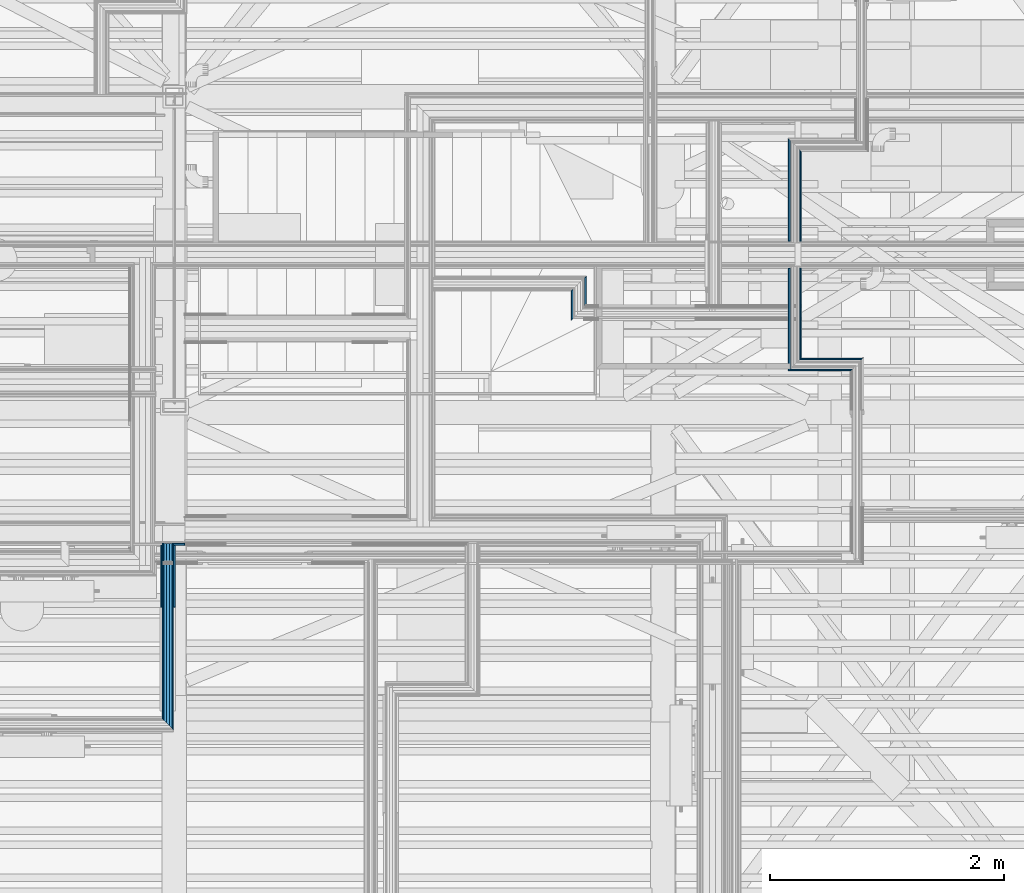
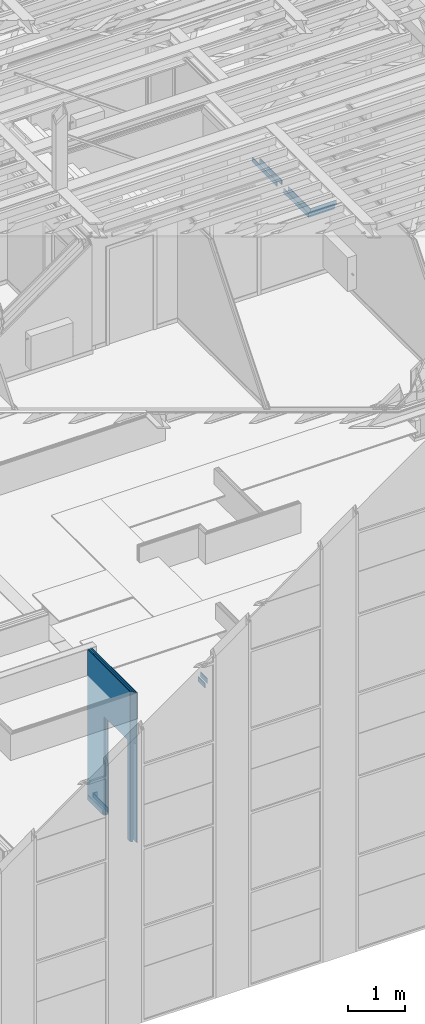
# One storey, part 77 of 183: 16 building element parts, 1 opening, 6 elements without a shape of their own.
"""IFC2X3 building model written with IfcOpenShell, lengths in metres."""

import ifcopenshell
import ifcopenshell.guid

model = None  # the IFC model being written
_history = None  # IfcOwnerHistory: only IFC2X3 demands one
_inside = {}  # id of a spatial element -> (the spatial element, [elements in it])
_under = {}  # id of a project, library or spatial element -> (it, [spatial elements below it])
_declared = {}  # id of a project -> (the project, [libraries it declares])
_typed = {}  # id of a type object -> (the type object, [elements of that type])
_made_of = {}  # id of a material, layer set ... -> (it, [elements and type objects made of it])


def new_model(schema):
    """Start an empty IFC model of exactly this schema.

    Asked for "IFC4X3", IfcOpenShell would pick the latest addendum, in which some entities
    have other attributes; the version numbers below select the first issue.
    IFC2X3 requires an IfcOwnerHistory on every rooted entity: one is made here for all.
    """
    global model, _history
    if schema == "IFC4X3":
        model = ifcopenshell.file(schema_version=(4, 3, 0, 0))
    else:
        model = ifcopenshell.file(schema=schema)
    _inside.clear()
    _under.clear()
    _declared.clear()
    _typed.clear()
    _made_of.clear()
    _history = None
    if model.schema == "IFC2X3":
        org = make("IfcOrganization", Name="unknown")
        user = make(
            "IfcPersonAndOrganization",
            ThePerson=make("IfcPerson", FamilyName="unknown"),
            TheOrganization=org,
        )
        app = make(
            "IfcApplication",
            ApplicationDeveloper=org,
            Version="unknown",
            ApplicationFullName="unknown",
            ApplicationIdentifier="unknown",
        )
        _history = make(
            "IfcOwnerHistory",
            OwningUser=user,
            OwningApplication=app,
            ChangeAction="ADDED",
            CreationDate=0,
        )
    return model


def make(cls, **values):
    """One entity of the class cls with the attributes given. An attribute that is None is left unset."""
    return model.create_entity(
        cls, **{name: value for name, value in values.items() if value is not None}
    )


def entity(cls, *values):
    """Any entity or typed value of the class cls, its attributes in the order of the schema. None: left unset."""
    e = model.create_entity(cls)
    for i, value in enumerate(values):
        if value is not None:
            e[i] = value
    return e


def rooted(cls, **values):
    """An entity with a GlobalId (a new one), such as an element, a storey or a relation."""
    return make(cls, GlobalId=ifcopenshell.guid.new(), OwnerHistory=_history, **values)


def si_unit(unit_type, name, prefix=None):
    """IfcSIUnit, for example si_unit("LENGTHUNIT", "METRE", prefix="MILLI")."""
    return make("IfcSIUnit", UnitType=unit_type, Prefix=prefix, Name=name)


def converted_unit(unit_type, name, factor, base, dimensions=None, offset=None):
    """IfcConversionBasedUnit, such as the inch: factor (a typed value) times the base unit."""
    return make(
        "IfcConversionBasedUnit"
        if offset is None
        else "IfcConversionBasedUnitWithOffset",
        ConversionOffset=offset,
        Dimensions=None
        if dimensions is None
        else entity("IfcDimensionalExponents", *dimensions),
        UnitType=unit_type,
        Name=name,
        ConversionFactor=make(
            "IfcMeasureWithUnit", ValueComponent=factor, UnitComponent=base
        ),
    )


def derived_unit(unit_type, elements):
    """IfcDerivedUnit: a product of units, each with its exponent."""
    return make(
        "IfcDerivedUnit",
        Elements=[
            make("IfcDerivedUnitElement", Unit=unit, Exponent=power)
            for unit, power in elements
        ],
        UnitType=unit_type,
    )


def money_unit(currency):
    """IfcMonetaryUnit."""
    return make("IfcMonetaryUnit", Currency=currency)


def assignment(units):
    """IfcUnitAssignment: the units of a project."""
    return None if units is None else make("IfcUnitAssignment", Units=units)


def point(xyz):
    """IfcCartesianPoint."""
    return None if xyz is None else make("IfcCartesianPoint", Coordinates=xyz)


def direction(xyz):
    """IfcDirection."""
    return None if xyz is None else make("IfcDirection", DirectionRatios=xyz)


def frame(location, z_axis=None, x_axis=None):
    """IfcAxis2Placement3D, a coordinate frame: its origin and axes. An axis left out is left unset."""
    return make(
        "IfcAxis2Placement3D",
        Location=point(location),
        Axis=direction(z_axis),
        RefDirection=direction(x_axis),
    )


def frame_2d(location, x_axis=None):
    """IfcAxis2Placement2D, a coordinate frame in the plane: its origin and x axis."""
    return make(
        "IfcAxis2Placement2D", Location=point(location), RefDirection=direction(x_axis)
    )


def origin_with_axes():
    """The frame at (0, 0, 0) with the z axis (0, 0, 1) and the x axis (1, 0, 0) written out."""
    return frame((0.0, 0.0, 0.0), z_axis=(0.0, 0.0, 1.0), x_axis=(1.0, 0.0, 0.0))


def place(relative_to, where):
    """IfcLocalPlacement: puts the frame where relative to a parent placement (None: the world)."""
    return make(
        "IfcLocalPlacement", PlacementRelTo=relative_to, RelativePlacement=where
    )


def context(
    kind, dimensions, precision=None, world=None, true_north=None, identifier=None
):
    """IfcGeometricRepresentationContext, for example the 3D "Model" context."""
    return make(
        "IfcGeometricRepresentationContext",
        ContextIdentifier=identifier,
        ContextType=kind,
        CoordinateSpaceDimension=dimensions,
        Precision=precision,
        WorldCoordinateSystem=world,
        TrueNorth=true_north,
    )


def subcontext(parent, identifier, kind, view, scale=None):
    """IfcGeometricRepresentationSubContext, for example "Body" below "Model"."""
    return make(
        "IfcGeometricRepresentationSubContext",
        ContextIdentifier=identifier,
        ContextType=kind,
        ParentContext=parent,
        TargetScale=scale,
        TargetView=view,
    )


def project(units=None, contexts=None):
    """IfcProject with its units and contexts."""
    return rooted(
        "IfcProject",
        Name="project",
        RepresentationContexts=contexts,
        UnitsInContext=assignment(units),
    )


def spatial(cls, under=None, at=None, **own):
    """A site, building, storey or space (cls), placed at a placement, below another one or the project."""
    s = rooted(cls, ObjectPlacement=at, **own)
    if under is not None:
        _under.setdefault(under.id(), (under, []))[1].append(s)
    return s


def polyline(points):
    """IfcPolyline through the points."""
    return make("IfcPolyline", Points=[point(p) for p in points])


def profile(cls, at=None, kind="AREA", **sizes):
    """A parametric profile (cls). Its sizes go by their IFC names, for example OverallWidth=200.0."""
    return make(cls, ProfileType=kind, Position=at, **sizes)


def rectangle(**sizes):
    """IfcRectangleProfileDef."""
    return profile("IfcRectangleProfileDef", **sizes)


def outline(outer, holes=None, kind="AREA"):
    """IfcArbitraryClosedProfileDef: a profile drawn as a closed curve; with holes, ...WithVoids."""
    if holes is None:
        return make("IfcArbitraryClosedProfileDef", ProfileType=kind, OuterCurve=outer)
    return make(
        "IfcArbitraryProfileDefWithVoids",
        ProfileType=kind,
        OuterCurve=outer,
        InnerCurves=holes,
    )


def extrude(swept, where, along, depth):
    """IfcExtrudedAreaSolid: the profile swept, set in the frame where, extruded along a direction by depth."""
    return make(
        "IfcExtrudedAreaSolid",
        SweptArea=swept,
        Position=where,
        ExtrudedDirection=direction(along),
        Depth=depth,
    )


def shape(context_of_items, identifier, shape_type, items):
    """IfcShapeRepresentation: the items that make up one representation, for example the "Body"."""
    return make(
        "IfcShapeRepresentation",
        ContextOfItems=context_of_items,
        RepresentationIdentifier=identifier,
        RepresentationType=shape_type,
        Items=items,
    )


def material(Name=None, Category=None):
    """IfcMaterial."""
    return make("IfcMaterial", Name=Name, Category=Category)


def made_of(thing, what):
    """Note that an element or type object is made of a material, layer set ...; save() writes the relation."""
    if what is not None:
        _made_of.setdefault(what.id(), (what, []))[1].append(thing)
    return thing


def type_object(cls, material=None, **own):
    """A type object (cls), such as IfcWallType, which elements share."""
    return made_of(rooted(cls, **own), material)


def element(
    cls,
    number,
    at=None,
    inside=None,
    cuts=None,
    type_object=None,
    material=None,
    context=None,
    identifier="Body",
    shape_type=None,
    held_by="IfcProductDefinitionShape",
    body=None,
    shapes=None,
    **own,
):
    """One element of the class cls, such as IfcWall. Its Tag is "e" and its number.

    at: its placement. inside: the storey or other place that contains it. cuts: it is an
    opening in that element (IfcRelVoidsElement). A single representation is given by context,
    identifier, shape_type and body (its items); several are given by shapes. held_by: the class
    of the entity that holds the representations. save() writes the other relations.
    """
    e = rooted(cls, Tag="e%d" % number, ObjectPlacement=at, **own)
    if body is not None:
        shapes = [shape(context, identifier, shape_type, body)]
    if shapes is not None:
        e.Representation = make(held_by, Representations=shapes)
    if inside is not None:
        _inside.setdefault(inside.id(), (inside, []))[1].append(e)
    if cuts is not None:
        rooted(
            "IfcRelVoidsElement", RelatingBuildingElement=cuts, RelatedOpeningElement=e
        )
    if type_object is not None:
        _typed.setdefault(type_object.id(), (type_object, []))[1].append(e)
    return made_of(e, material)


def aggregate(whole, parts):
    """IfcRelAggregates: a whole, such as a stair, and the parts it consists of."""
    return rooted("IfcRelAggregates", RelatingObject=whole, RelatedObjects=parts)


def save(model, path):
    """Write the relations noted so far, then the file.

    IfcRelAggregates (storeys below a building ...), IfcRelContainedInSpatialStructure (elements
    in a storey), IfcRelDefinesByType, IfcRelAssociatesMaterial and IfcRelDeclares: one each for
    every whole, place, type object, material and project.
    """
    for whole, parts in _under.values():
        aggregate(whole, parts)
    for where, things in _inside.values():
        rooted(
            "IfcRelContainedInSpatialStructure",
            RelatedElements=things,
            RelatingStructure=where,
        )
    for kind, things in _typed.values():
        rooted("IfcRelDefinesByType", RelatedObjects=things, RelatingType=kind)
    for what, things in _made_of.values():
        rooted("IfcRelAssociatesMaterial", RelatedObjects=things, RelatingMaterial=what)
    for by, libraries in _declared.values():
        rooted("IfcRelDeclares", RelatingContext=by, RelatedDefinitions=libraries)
    model.write(path)


model = new_model("IFC2X3")

# Units and contexts
model_context = context("Model", 3, precision=1e-05, world=origin_with_axes(), true_north=direction((0.0, 1.0)))
body_context = subcontext(model_context, "Body", "Model", "MODEL_VIEW", scale=1.0)
ifc_project = project(units=[si_unit("LENGTHUNIT", "METRE"), si_unit("AREAUNIT", "SQUARE_METRE"), si_unit("VOLUMEUNIT", "CUBIC_METRE"), si_unit("ABSORBEDDOSEUNIT", "GRAY"), si_unit("AMOUNTOFSUBSTANCEUNIT", "MOLE"), si_unit("DOSEEQUIVALENTUNIT", "SIEVERT"), si_unit("ELECTRICCAPACITANCEUNIT", "FARAD"), si_unit("ELECTRICCHARGEUNIT", "COULOMB"), si_unit("ELECTRICCONDUCTANCEUNIT", "SIEMENS"), si_unit("ELECTRICCURRENTUNIT", "AMPERE"), si_unit("ELECTRICRESISTANCEUNIT", "OHM"), si_unit("ELECTRICVOLTAGEUNIT", "VOLT"), si_unit("ENERGYUNIT", "JOULE"), si_unit("FORCEUNIT", "NEWTON"), si_unit("FREQUENCYUNIT", "HERTZ"), si_unit("ILLUMINANCEUNIT", "LUX"), si_unit("INDUCTANCEUNIT", "HENRY"), si_unit("LUMINOUSFLUXUNIT", "LUMEN"), si_unit("LUMINOUSINTENSITYUNIT", "CANDELA"), si_unit("MAGNETICFLUXDENSITYUNIT", "TESLA"), si_unit("MAGNETICFLUXUNIT", "WEBER"), si_unit("MASSUNIT", "GRAM"), converted_unit("PLANEANGLEUNIT", "degree", entity("IfcReal", 0.0174532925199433), si_unit("PLANEANGLEUNIT", "RADIAN"), dimensions=[0, 0, 0, 0, 0, 0, 0]), si_unit("POWERUNIT", "WATT"), si_unit("PRESSUREUNIT", "PASCAL"), si_unit("RADIOACTIVITYUNIT", "BECQUEREL"), si_unit("SOLIDANGLEUNIT", "STERADIAN"), si_unit("THERMODYNAMICTEMPERATUREUNIT", "KELVIN"), si_unit("TIMEUNIT", "SECOND"), derived_unit("ACCELERATIONUNIT", [(si_unit("LENGTHUNIT", "METRE"), 1), (si_unit("TIMEUNIT", "SECOND"), -2)]), derived_unit("ANGULARVELOCITYUNIT", [(converted_unit("PLANEANGLEUNIT", "degree", entity("IfcReal", 0.0174532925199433), si_unit("PLANEANGLEUNIT", "RADIAN"), dimensions=[0, 0, 0, 0, 0, 0, 0]), 1), (si_unit("TIMEUNIT", "SECOND"), -1)]), derived_unit("CURVATUREUNIT", [(converted_unit("PLANEANGLEUNIT", "degree", entity("IfcReal", 0.0174532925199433), si_unit("PLANEANGLEUNIT", "RADIAN"), dimensions=[0, 0, 0, 0, 0, 0, 0]), 1), (si_unit("LENGTHUNIT", "METRE"), -1)]), derived_unit("DYNAMICVISCOSITYUNIT", [(si_unit("PRESSUREUNIT", "PASCAL"), 1), (si_unit("TIMEUNIT", "SECOND"), 1)]), derived_unit("HEATFLUXDENSITYUNIT", [(si_unit("POWERUNIT", "WATT"), 1), (si_unit("LENGTHUNIT", "METRE"), -2)]), derived_unit("HEATINGVALUEUNIT", [(si_unit("ENERGYUNIT", "JOULE"), 1), (si_unit("MASSUNIT", "GRAM"), -1)]), derived_unit("INTEGERCOUNTRATEUNIT", [(si_unit("TIMEUNIT", "SECOND"), -1)]), derived_unit("IONCONCENTRATIONUNIT", [(si_unit("MASSUNIT", "GRAM"), 1), (si_unit("VOLUMEUNIT", "CUBIC_METRE"), -1)]), derived_unit("ISOTHERMALMOISTURECAPACITYUNIT", [(si_unit("VOLUMEUNIT", "CUBIC_METRE"), 1), (si_unit("MASSUNIT", "GRAM"), -1)]), derived_unit("KINEMATICVISCOSITYUNIT", [(si_unit("AREAUNIT", "SQUARE_METRE"), 1), (si_unit("TIMEUNIT", "SECOND"), -1)]), derived_unit("LINEARFORCEUNIT", [(si_unit("FORCEUNIT", "NEWTON"), 1), (si_unit("LENGTHUNIT", "METRE"), -1)]), derived_unit("LINEARMOMENTUNIT", [(si_unit("FORCEUNIT", "NEWTON"), 1), (si_unit("LENGTHUNIT", "METRE"), -1)]), derived_unit("LINEARSTIFFNESSUNIT", [(si_unit("FORCEUNIT", "NEWTON"), 1), (si_unit("LENGTHUNIT", "METRE"), -1)]), derived_unit("LINEARVELOCITYUNIT", [(si_unit("LENGTHUNIT", "METRE"), 1), (si_unit("TIMEUNIT", "SECOND"), -1)]), derived_unit("LUMINOUSINTENSITYDISTRIBUTIONUNIT", [(si_unit("LUMINOUSINTENSITYUNIT", "CANDELA"), 1), (si_unit("LUMINOUSFLUXUNIT", "LUMEN"), -1)]), derived_unit("MASSDENSITYUNIT", [(si_unit("MASSUNIT", "GRAM"), 1), (si_unit("VOLUMEUNIT", "CUBIC_METRE"), -1)]), derived_unit("MASSFLOWRATEUNIT", [(si_unit("MASSUNIT", "GRAM"), 1), (si_unit("TIMEUNIT", "SECOND"), -1)]), derived_unit("MASSPERLENGTHUNIT", [(si_unit("MASSUNIT", "GRAM"), 1), (si_unit("LENGTHUNIT", "METRE"), -1)]), derived_unit("MODULUSOFELASTICITYUNIT", [(si_unit("FORCEUNIT", "NEWTON"), 1), (si_unit("AREAUNIT", "SQUARE_METRE"), -1)]), derived_unit("MODULUSOFLINEARSUBGRADEREACTIONUNIT", [(si_unit("FORCEUNIT", "NEWTON"), 1), (si_unit("LENGTHUNIT", "METRE"), -2)]), derived_unit("MODULUSOFROTATIONALSUBGRADEREACTIONUNIT", [(si_unit("FORCEUNIT", "NEWTON"), 1), (si_unit("LENGTHUNIT", "METRE"), 1)]), derived_unit("MODULUSOFSUBGRADEREACTIONUNIT", [(si_unit("FORCEUNIT", "NEWTON"), 1), (si_unit("VOLUMEUNIT", "CUBIC_METRE"), -1)]), derived_unit("MOISTUREDIFFUSIVITYUNIT", [(si_unit("VOLUMEUNIT", "CUBIC_METRE"), 1), (si_unit("TIMEUNIT", "SECOND"), -1)]), derived_unit("MOLECULARWEIGHTUNIT", [(si_unit("MASSUNIT", "GRAM"), 1), (si_unit("AMOUNTOFSUBSTANCEUNIT", "MOLE"), -1)]), derived_unit("PLANARFORCEUNIT", [(si_unit("FORCEUNIT", "NEWTON"), 1), (si_unit("LENGTHUNIT", "METRE"), -2)]), derived_unit("ROTATIONALFREQUENCYUNIT", [(si_unit("TIMEUNIT", "SECOND"), -1)]), derived_unit("ROTATIONALMASSUNIT", [(si_unit("MASSUNIT", "GRAM"), 1), (si_unit("LENGTHUNIT", "METRE"), 2)]), derived_unit("ROTATIONALSTIFFNESSUNIT", [(si_unit("FORCEUNIT", "NEWTON"), 1), (si_unit("LENGTHUNIT", "METRE"), 1), (converted_unit("PLANEANGLEUNIT", "degree", entity("IfcReal", 0.0174532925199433), si_unit("PLANEANGLEUNIT", "RADIAN"), dimensions=[0, 0, 0, 0, 0, 0, 0]), -1)]), derived_unit("SECTIONAREAINTEGRALUNIT", [(si_unit("LENGTHUNIT", "METRE"), 5)]), derived_unit("SECTIONMODULUSUNIT", [(si_unit("LENGTHUNIT", "METRE"), 3)]), derived_unit("SHEARMODULUSUNIT", [(si_unit("FORCEUNIT", "NEWTON"), 1), (si_unit("AREAUNIT", "SQUARE_METRE"), -1)]), derived_unit("SOUNDPOWERUNIT", [(si_unit("ENERGYUNIT", "JOULE"), 1), (si_unit("TIMEUNIT", "SECOND"), -1)]), derived_unit("SPECIFICHEATCAPACITYUNIT", [(si_unit("FORCEUNIT", "NEWTON"), 1), (si_unit("MASSUNIT", "GRAM"), -1), (si_unit("THERMODYNAMICTEMPERATUREUNIT", "KELVIN"), -1)]), derived_unit("TEMPERATUREGRADIENTUNIT", [(si_unit("THERMODYNAMICTEMPERATUREUNIT", "KELVIN"), 1), (si_unit("LENGTHUNIT", "METRE"), -1)]), derived_unit("THERMALADMITTANCEUNIT", [(si_unit("POWERUNIT", "WATT"), 1), (si_unit("AREAUNIT", "SQUARE_METRE"), -1), (si_unit("THERMODYNAMICTEMPERATUREUNIT", "KELVIN"), -1)]), derived_unit("THERMALCONDUCTANCEUNIT", [(si_unit("POWERUNIT", "WATT"), 1), (si_unit("LENGTHUNIT", "METRE"), -1), (si_unit("THERMODYNAMICTEMPERATUREUNIT", "KELVIN"), -1)]), derived_unit("THERMALEXPANSIONCOEFFICIENTUNIT", [(si_unit("THERMODYNAMICTEMPERATUREUNIT", "KELVIN"), -1)]), derived_unit("THERMALRESISTANCEUNIT", [(si_unit("AREAUNIT", "SQUARE_METRE"), 1), (si_unit("POWERUNIT", "WATT"), -1)]), derived_unit("THERMALTRANSMITTANCEUNIT", [(si_unit("POWERUNIT", "WATT"), 1), (si_unit("AREAUNIT", "SQUARE_METRE"), -1), (si_unit("THERMODYNAMICTEMPERATUREUNIT", "KELVIN"), -1)]), derived_unit("TORQUEUNIT", [(si_unit("FORCEUNIT", "NEWTON"), 1), (si_unit("LENGTHUNIT", "METRE"), 1)]), derived_unit("VAPORPERMEABILITYUNIT", [(si_unit("MASSUNIT", "GRAM"), 1), (si_unit("TIMEUNIT", "SECOND"), -1)]), derived_unit("VOLUMETRICFLOWRATEUNIT", [(si_unit("VOLUMEUNIT", "CUBIC_METRE"), 1), (si_unit("TIMEUNIT", "SECOND"), -1)]), derived_unit("WARPINGCONSTANTUNIT", [(si_unit("LENGTHUNIT", "METRE"), 6)]), derived_unit("WARPINGMOMENTUNIT", [(si_unit("FORCEUNIT", "NEWTON"), 1), (si_unit("LENGTHUNIT", "METRE"), 2)]), money_unit("GBP")], contexts=[model_context])

# Site, building, storey
site_placement = place(None, origin_with_axes())
site = spatial("IfcSite", under=ifc_project, at=site_placement, Name="Site", CompositionType="ELEMENT")
building_placement = place(site_placement, origin_with_axes())
building = spatial("IfcBuilding", under=site, at=building_placement, Name="Building01", CompositionType="ELEMENT")
storey_placement = place(building_placement, frame((0.0, 0.0, 5.15), z_axis=(0.0, 0.0, 1.0), x_axis=(1.0, 0.0, 0.0)))
storey = spatial("IfcBuildingStorey", under=building, at=storey_placement, Name="1F", CompositionType="ELEMENT", Elevation=5.15)

# Wall, building element parts
wall_type_1 = type_object("IfcWallType", Name="SHE_A-Walls_Type05a_Partition_95mm_tall", PredefinedType="NOTDEFINED")
wall_1_placement = place(storey_placement, frame((21.382661, 6.965, 0.0), z_axis=(0.0, 0.0, 1.0), x_axis=(0.0, 1.0, 0.0)))
wall_1 = element("IfcWall", 1, at=wall_1_placement, inside=storey, type_object=wall_type_1, Name="5A", ObjectType="SHE_A-Walls_Type05a_Partition_95mm_tall")
ifc_material_1 = material(Name="A_BSUK_Walls_Timber")
placement_1 = place(wall_1_placement, origin_with_axes())
building_element_part_1 = element("IfcBuildingElementPart", 2, at=placement_1, material=ifc_material_1, Name="1", context=body_context, shape_type="SweptSolid", body=[
    extrude(outline(polyline([(0.285, -0.035), (0.035, -0.035), (0.05, -0.05), (0.3, -0.05), (0.285, -0.035)])), frame((0.0, 0.0, 0.015), z_axis=(0.0, 0.0, 1.0), x_axis=(1.0, 0.0, 0.0)), (0.0, 0.0, 1.0), 0.1),
])
building_element_part_2 = element("IfcBuildingElementPart", 3, at=placement_1, material=ifc_material_1, Name="7", context=body_context, shape_type="SweptSolid", body=[
    extrude(outline(polyline([(0.175, 0.075), (-0.075, 0.075), (-0.06, 0.06), (0.19, 0.06), (0.175, 0.075)])), frame((0.0, 0.0, 0.015), z_axis=(0.0, 0.0, 1.0), x_axis=(1.0, 0.0, 0.0)), (0.0, 0.0, 1.0), 0.1),
])
aggregate(wall_1, [building_element_part_1, building_element_part_2])

# Wall, opening, building element parts
wall_2_placement = place(storey_placement, frame((17.8675, 4.98, 0.0), z_axis=(0.0, 0.0, 1.0), x_axis=(0.0, -1.0, 0.0)))
wall_2 = element("IfcWall", 4, at=wall_2_placement, inside=storey, type_object=wall_type_1, Name="5A", ObjectType="SHE_A-Walls_Type05a_Partition_95mm_tall")
opening_placement = place(wall_2_placement, frame((0.574219, -0.06, -0.015), z_axis=(0.0, 0.0, 1.0), x_axis=(1.0, 0.0, 0.0)))
element("IfcOpeningElement", 5, at=opening_placement, cuts=wall_2, Name="Opening", ObjectType="Recess", context=body_context, shape_type="SweptSolid", body=[
    extrude(rectangle(XDim=0.834, YDim=2.157, at=frame_2d((-0.417, 1.0785), x_axis=(-1.0, 0.0))), frame((0.0, 0.0, 0.0), z_axis=(0.0, 1.0, 0.0), x_axis=(-1.0, 0.0, 0.0)), (0.0, 0.0, 1.0), 0.095),
    extrude(outline(polyline([(0.0, 2.157), (-1.034, 2.157), (-1.034, 0.015), (-0.834, 0.015), (-0.834, 0.0), (0.0, 0.0), (0.0, 2.157)])), frame((0.0, 0.035, 0.0), z_axis=(0.0, 1.0, 0.0), x_axis=(-1.0, 0.0, 0.0)), (0.0, 0.0, 1.0), 0.025),
    extrude(outline(polyline([(0.0, 2.157), (-1.034, 2.157), (-1.034, 0.015), (-0.834, 0.015), (-0.834, 0.0), (0.0, 0.0), (0.0, 2.157)])), frame((0.0, 0.06, 0.0), z_axis=(0.0, 1.0, 0.0), x_axis=(-1.0, 0.0, 0.0)), (0.0, 0.0, 1.0), 0.023),
])
placement_2 = place(wall_2_placement, origin_with_axes())
building_element_part_3 = element("IfcBuildingElementPart", 6, at=placement_2, material=ifc_material_1, Name="1", context=body_context, shape_type="SweptSolid", body=[
    extrude(rectangle(XDim=0.015, YDim=0.532219, at=frame_2d((0.28111, -0.0675), x_axis=(0.0, -1.0))), frame((0.0, 0.0, 0.015), z_axis=(0.0, 0.0, 1.0), x_axis=(1.0, 0.0, 0.0)), (0.0, 0.0, 1.0), 0.1),
])
ifc_material_2 = material(Name="A_BSUK_WallInternal_Finishes_Plasterboard")
building_element_part_4 = element("IfcBuildingElementPart", 7, at=placement_2, material=ifc_material_2, Name="2", context=body_context, shape_type="SweptSolid", body=[
    extrude(outline(polyline([(1.512, -0.048), (0.0, -0.048), (0.0, -0.06), (1.5, -0.06), (1.512, -0.048)])), origin_with_axes(), (0.0, 0.0, 1.0), 3.24),
])
ifc_material_3 = material(Name="Air Cavity")
building_element_part_5 = element("IfcBuildingElementPart", 8, at=placement_2, material=ifc_material_3, Name="3", context=body_context, shape_type="SweptSolid", body=[
    extrude(outline(polyline([(1.535, -0.025), (0.0, -0.025), (0.0, -0.048), (1.512, -0.048), (1.535, -0.025)])), origin_with_axes(), (0.0, 0.0, 1.0), 3.24),
])
ifc_material_4 = material(Name="A_BSUK_Insulation")
building_element_part_6 = element("IfcBuildingElementPart", 9, at=placement_2, material=ifc_material_4, Name="4", context=body_context, shape_type="SweptSolid", body=[
    extrude(outline(polyline([(1.56, 0.0), (0.0, 0.0), (0.0, -0.025), (1.535, -0.025), (1.56, 0.0)])), origin_with_axes(), (0.0, 0.0, 1.0), 3.24),
])
building_element_part_7 = element("IfcBuildingElementPart", 10, at=placement_2, material=ifc_material_3, Name="5", context=body_context, shape_type="SweptSolid", body=[
    extrude(outline(polyline([(1.583, 0.023), (0.0, 0.023), (0.0, 0.0), (1.56, 0.0), (1.583, 0.023)])), origin_with_axes(), (0.0, 0.0, 1.0), 3.24),
])
building_element_part_8 = element("IfcBuildingElementPart", 11, at=placement_2, material=ifc_material_2, Name="6", context=body_context, shape_type="SweptSolid", body=[
    extrude(outline(polyline([(1.595, 0.035), (0.0, 0.035), (0.0, 0.023), (1.583, 0.023), (1.595, 0.035)])), origin_with_axes(), (0.0, 0.0, 1.0), 3.24),
])
building_element_part_9 = element("IfcBuildingElementPart", 12, at=placement_2, material=ifc_material_1, Name="7", context=body_context, shape_type="SweptSolid", body=[
    extrude(rectangle(XDim=0.015, YDim=0.532219, at=frame_2d((0.28111, 0.0425), x_axis=(0.0, -1.0))), frame((0.0, 0.0, 0.015), z_axis=(0.0, 0.0, 1.0), x_axis=(1.0, 0.0, 0.0)), (0.0, 0.0, 1.0), 0.1),
])
aggregate(wall_2, [building_element_part_3, building_element_part_4, building_element_part_5, building_element_part_6, building_element_part_7, building_element_part_8, building_element_part_9])

# Wall, building element part
wall_type_2 = type_object("IfcWallType", Name="SHE_A-Walls_Type03a_BlockworkWall_170mm", PredefinedType="NOTDEFINED")
wall_3_placement = place(storey_placement, frame((9.06, 4.995, 0.0), z_axis=(0.0, 0.0, 1.0), x_axis=(1.0, 0.0, 0.0)))
wall_3 = element("IfcWall", 13, at=wall_3_placement, inside=storey, type_object=wall_type_2, Name="4B", ObjectType="SHE_A-Walls_Type03a_BlockworkWall_170mm")
building_element_part_10_placement = place(wall_3_placement, origin_with_axes())
building_element_part_10 = element("IfcBuildingElementPart", 14, at=building_element_part_10_placement, material=ifc_material_1, Name="3", context=body_context, shape_type="SweptSolid", body=[
    extrude(rectangle(XDim=0.015, YDim=0.0975, at=frame_2d((8.89125, -0.0225), x_axis=(0.0, -1.0))), frame((0.0, 0.0, 0.015), z_axis=(0.0, 0.0, 1.0), x_axis=(1.0, 0.0, 0.0)), (0.0, 0.0, 1.0), 0.1),
])
aggregate(wall_3, [building_element_part_10])

# Wall, building element parts
wall_type_3 = type_object("IfcWallType", Name="SHE_A-Walls_Type05b_Partition_80mm", PredefinedType="NOTDEFINED")
wall_4_placement = place(storey_placement, frame((23.206821, 6.498085, 9.78), z_axis=(0.0, 0.0, 1.0), x_axis=(1.0, 0.0, 0.0)))
wall_4 = element("IfcWall", 15, at=wall_4_placement, inside=storey, type_object=wall_type_3, Name="5B", ObjectType="SHE_A-Walls_Type05b_Partition_80mm")
placement_3 = place(wall_4_placement, origin_with_axes())
building_element_part_11 = element("IfcBuildingElementPart", 16, at=placement_3, material=ifc_material_1, Name="1", context=body_context, shape_type="SweptSolid", body=[
    extrude(outline(polyline([(0.503179, -0.028), (-0.028, -0.028), (-0.043, -0.043), (0.488179, -0.043), (0.503179, -0.028)])), frame((0.0, 0.0, 0.015), z_axis=(0.0, 0.0, 1.0), x_axis=(1.0, 0.0, 0.0)), (0.0, 0.0, 1.0), 0.1),
])
building_element_part_12 = element("IfcBuildingElementPart", 17, at=placement_3, material=ifc_material_1, Name="7", context=body_context, shape_type="SweptSolid", body=[
    extrude(outline(polyline([(0.598179, 0.067), (0.067, 0.067), (0.052, 0.052), (0.583179, 0.052), (0.598179, 0.067)])), frame((0.0, 0.0, 0.015), z_axis=(0.0, 0.0, 1.0), x_axis=(1.0, 0.0, 0.0)), (0.0, 0.0, 1.0), 0.1),
])
aggregate(wall_4, [building_element_part_11, building_element_part_12])

wall_5_placement = place(storey_placement, frame((23.206821, 7.549915, 9.78), z_axis=(0.0, 0.0, 1.0), x_axis=(0.0, 1.0, 0.0)))
wall_5 = element("IfcWall", 18, at=wall_5_placement, inside=storey, type_object=wall_type_3, Name="5B", ObjectType="SHE_A-Walls_Type05b_Partition_80mm")
placement_4 = place(wall_5_placement, origin_with_axes())
building_element_part_13 = element("IfcBuildingElementPart", 19, at=placement_4, material=ifc_material_1, Name="1", context=body_context, shape_type="SweptSolid", body=[
    extrude(outline(polyline([(0.8, -0.052), (0.015, -0.052), (0.015, -0.067), (0.785, -0.067), (0.8, -0.052)])), frame((0.0, 0.0, 0.015), z_axis=(0.0, 0.0, 1.0), x_axis=(1.0, 0.0, 0.0)), (0.0, 0.0, 1.0), 0.1),
])
building_element_part_14 = element("IfcBuildingElementPart", 20, at=placement_4, material=ifc_material_1, Name="7", context=body_context, shape_type="SweptSolid", body=[
    extrude(outline(polyline([(0.895, 0.043), (0.015, 0.043), (0.015, 0.028), (0.88, 0.028), (0.895, 0.043)])), frame((0.0, 0.0, 0.015), z_axis=(0.0, 0.0, 1.0), x_axis=(1.0, 0.0, 0.0)), (0.0, 0.0, 1.0), 0.1),
])
aggregate(wall_5, [building_element_part_13, building_element_part_14])

wall_6_placement = place(storey_placement, frame((23.206821, 7.349915, 9.78), z_axis=(0.0, 0.0, 1.0), x_axis=(0.0, -1.0, 0.0)))
wall_6 = element("IfcWall", 21, at=wall_6_placement, inside=storey, type_object=wall_type_3, Name="5B", ObjectType="SHE_A-Walls_Type05b_Partition_80mm")
placement_5 = place(wall_6_placement, origin_with_axes())
building_element_part_15 = element("IfcBuildingElementPart", 22, at=placement_5, material=ifc_material_1, Name="1", context=body_context, shape_type="SweptSolid", body=[
    extrude(outline(polyline([(0.87983, -0.028), (0.015, -0.028), (0.015, -0.043), (0.89483, -0.043), (0.87983, -0.028)])), frame((0.0, 0.0, 0.015), z_axis=(0.0, 0.0, 1.0), x_axis=(1.0, 0.0, 0.0)), (0.0, 0.0, 1.0), 0.1),
])
building_element_part_16 = element("IfcBuildingElementPart", 23, at=placement_5, material=ifc_material_1, Name="7", context=body_context, shape_type="SweptSolid", body=[
    extrude(outline(polyline([(0.78483, 0.067), (0.015, 0.067), (0.015, 0.052), (0.79983, 0.052), (0.78483, 0.067)])), frame((0.0, 0.0, 0.015), z_axis=(0.0, 0.0, 1.0), x_axis=(1.0, 0.0, 0.0)), (0.0, 0.0, 1.0), 0.1),
])
aggregate(wall_6, [building_element_part_15, building_element_part_16])

save(model, "model.ifc")
